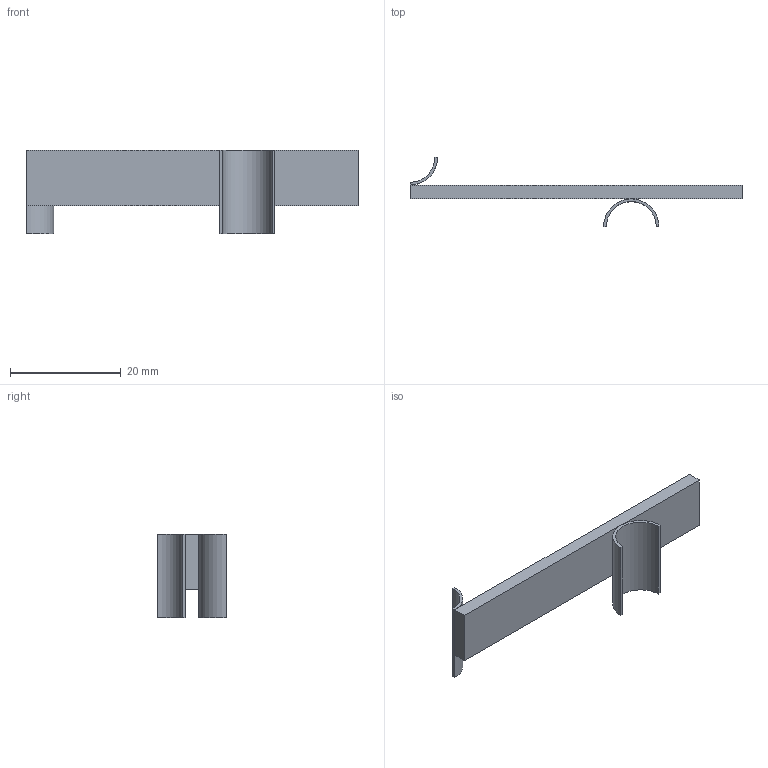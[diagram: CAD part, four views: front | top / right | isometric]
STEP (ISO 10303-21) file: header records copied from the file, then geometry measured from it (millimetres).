
FILE_DESCRIPTION(('FreeCAD Model'),'2;1');
FILE_NAME('Open CASCADE Shape Model','2025-07-10T18:24:24',(''),(''), 'Open CASCADE STEP processor 7.8','FreeCAD','Unknown');
FILE_SCHEMA(('AUTOMOTIVE_DESIGN { 1 0 10303 214 1 1 1 1 }'));
Length unit declared in the file: millimetre
Products named in the file (4): test; Extrude; Body; Extrude001
Assembly tree (3 placements, depth 2):
  test
    Extrude
    Body
    Extrude001
Bounding box: 60 x 12.5 x 15 mm (x, y, z)
Volume: 1667.9 mm3; surface area: 2273.9 mm2
Topology: 3 solids, 3 shells, 18 faces, 36 edges, 24 vertices
Faces by surface type: plane 14, cylinder 4
Entity records: 561 total; most frequent: DIRECTION 88, CARTESIAN_POINT 82, ORIENTED_EDGE 72, EDGE_CURVE 36, AXIS2_PLACEMENT_3D 30, LINE 28, VECTOR 28, VERTEX_POINT 24
